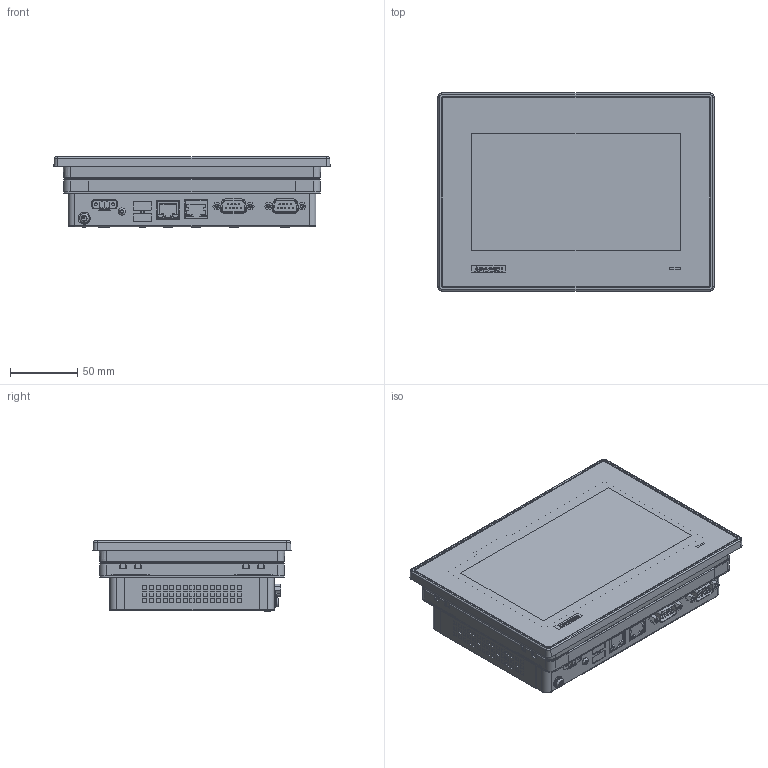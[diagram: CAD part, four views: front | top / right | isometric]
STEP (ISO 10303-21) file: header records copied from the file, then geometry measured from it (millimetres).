
FILE_DESCRIPTION (( 'STEP AP214' ), '1' );
FILE_NAME ('0-TPC-107WP-wo fill data.STEP', '2022-04-28T09:38:05', ( '' ), ( '' ), 'SwSTEP 2.0', 'SolidWorks 2020', '' );
FILE_SCHEMA (( 'AUTOMOTIVE_DESIGN' ));
Length unit declared in the file: millimetre
Products named in the file (1): 0-TPC-107WP-wo fill data
Bounding box: 205 x 146.92 x 52.07 mm (x, y, z)
Volume: 1310041.4 mm3; surface area: 286402.3 mm2
Topology: 56 solids, 56 shells, 4019 faces, 10184 edges, 6586 vertices
Faces by surface type: plane 3086, cylinder 645, bspline 165, cone 78, torus 45
Full cylindrical faces by diameter (mm): 1 x18, 1.3 x2, 1.8 x2, 2.05 x2, 2.261 x8, 2.459 x19, 2.5 x2, 2.82 x4, 3 x11, 3.3 x4, 3.424 x4, 4 x3, 5 x4, 5.05 x4, 5.3 x1, 5.4 x7, 7 x1, 9 x1
Entity records: 170656 total; most frequent: CARTESIAN_POINT 31323, ORIENTED_EDGE 19938, DIRECTION 17984, EDGE_CURVE 9969, VECTOR 7956, LINE 7956, VERTEX_POINT 6533, AXIS2_PLACEMENT_3D 5014
